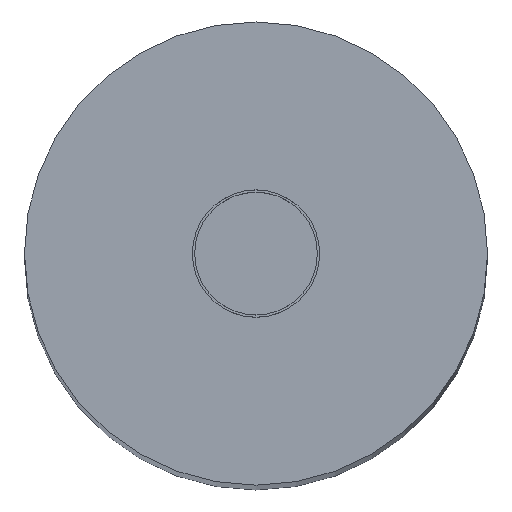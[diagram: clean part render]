
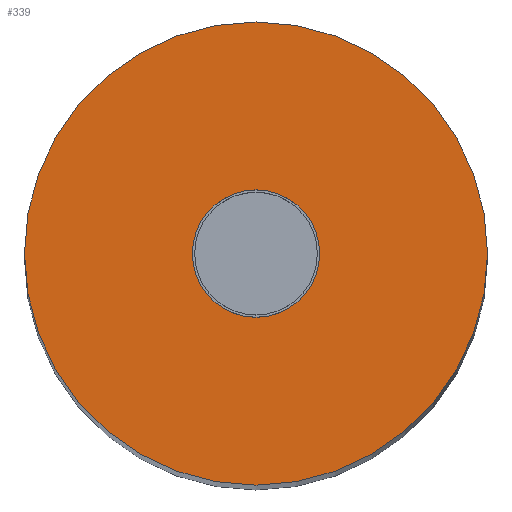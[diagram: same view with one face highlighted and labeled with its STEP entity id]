
A CAD part, top view. The second image highlights one B-rep face of the part: STEP entity #339.
In plain terms, the highlighted planar face has unit normal (0, 0, 1).
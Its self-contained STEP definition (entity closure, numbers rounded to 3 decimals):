
#1 = CARTESIAN_POINT ( 'NONE',  ( 0., 0., 0. ) ) ;
#8 = ORIENTED_EDGE ( 'NONE', *, *, #329, .T. ) ;
#18 = DIRECTION ( 'NONE',  ( 0., 0., 1. ) ) ;
#27 = AXIS2_PLACEMENT_3D ( 'NONE', #246, #52, #369 ) ;
#44 = AXIS2_PLACEMENT_3D ( 'NONE', #1, #388, #191 ) ;
#46 = VERTEX_POINT ( 'NONE', #232 ) ;
#52 = DIRECTION ( 'NONE',  ( 0., 0., 1. ) ) ;
#80 = DIRECTION ( 'NONE',  ( 0., 0., 1. ) ) ;
#106 = EDGE_CURVE ( 'NONE', #305, #46, #199, .T. ) ;
#112 = CARTESIAN_POINT ( 'NONE',  ( 0., 0., 0. ) ) ;
#120 = PLANE ( 'NONE',  #44 ) ;
#131 = EDGE_CURVE ( 'NONE', #278, #263, #174, .T. ) ;
#142 = CARTESIAN_POINT ( 'NONE',  ( 0.138, 0., 0. ) ) ;
#150 = AXIS2_PLACEMENT_3D ( 'NONE', #210, #236, #214 ) ;
#166 = ORIENTED_EDGE ( 'NONE', *, *, #131, .F. ) ;
#174 = CIRCLE ( 'NONE', #363, 0.138 ) ;
#180 = CARTESIAN_POINT ( 'NONE',  ( -0.138, 0., 0. ) ) ;
#191 = DIRECTION ( 'NONE',  ( 1., 0., 0. ) ) ;
#199 = CIRCLE ( 'NONE', #27, 0.5 ) ;
#202 = DIRECTION ( 'NONE',  ( 1., 0., 0. ) ) ;
#210 = CARTESIAN_POINT ( 'NONE',  ( 0., 0., 0. ) ) ;
#214 = DIRECTION ( 'NONE',  ( 1., 0., 0. ) ) ;
#217 = DIRECTION ( 'NONE',  ( 1., 0., 0. ) ) ;
#232 = CARTESIAN_POINT ( 'NONE',  ( 0.5, 0., 0. ) ) ;
#235 = EDGE_LOOP ( 'NONE', ( #166, #312 ) ) ;
#236 = DIRECTION ( 'NONE',  ( 0., 0., 1. ) ) ;
#243 = AXIS2_PLACEMENT_3D ( 'NONE', #367, #80, #202 ) ;
#246 = CARTESIAN_POINT ( 'NONE',  ( 0., 0., 0. ) ) ;
#263 = VERTEX_POINT ( 'NONE', #180 ) ;
#278 = VERTEX_POINT ( 'NONE', #142 ) ;
#301 = EDGE_CURVE ( 'NONE', #263, #278, #411, .T. ) ;
#305 = VERTEX_POINT ( 'NONE', #406 ) ;
#312 = ORIENTED_EDGE ( 'NONE', *, *, #301, .F. ) ;
#329 = EDGE_CURVE ( 'NONE', #46, #305, #394, .T. ) ;
#336 = FACE_OUTER_BOUND ( 'NONE', #377, .T. ) ;
#339 = ADVANCED_FACE ( 'NONE', ( #371, #336 ), #120, .T. ) ;
#363 = AXIS2_PLACEMENT_3D ( 'NONE', #112, #18, #217 ) ;
#367 = CARTESIAN_POINT ( 'NONE',  ( 0., 0., 0. ) ) ;
#369 = DIRECTION ( 'NONE',  ( 1., 0., 0. ) ) ;
#371 = FACE_BOUND ( 'NONE', #235, .T. ) ;
#377 = EDGE_LOOP ( 'NONE', ( #8, #414 ) ) ;
#388 = DIRECTION ( 'NONE',  ( 0., 0., 1. ) ) ;
#394 = CIRCLE ( 'NONE', #243, 0.5 ) ;
#406 = CARTESIAN_POINT ( 'NONE',  ( -0.5, 0., 0. ) ) ;
#411 = CIRCLE ( 'NONE', #150, 0.138 ) ;
#414 = ORIENTED_EDGE ( 'NONE', *, *, #106, .T. ) ;
